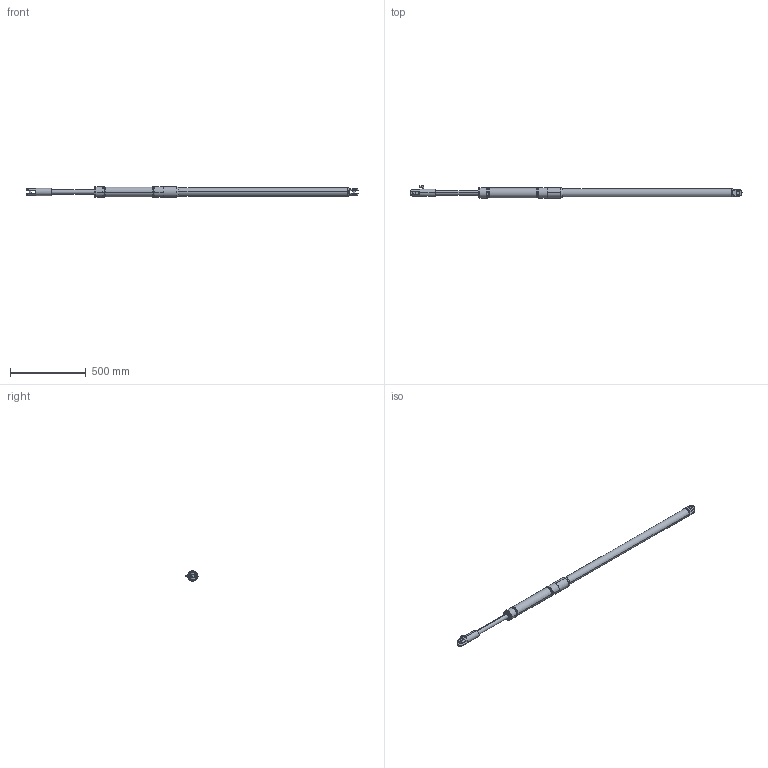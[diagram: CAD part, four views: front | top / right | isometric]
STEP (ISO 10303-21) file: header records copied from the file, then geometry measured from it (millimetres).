
FILE_DESCRIPTION (( 'STEP AP203' ), '1' );
FILE_NAME ('VNG_050.STEP', '2017-12-29T11:33:08', ( 'Pierluca' ), ( '' ), 'SwSTEP 2.0', 'SolidWorks 2015', '' );
FILE_SCHEMA (( 'CONFIG_CONTROL_DESIGN' ));
Length unit declared in the file: millimetre
Products named in the file (1): VNG_050
Bounding box: 2194 x 80.06 x 69 mm (x, y, z)
Volume: 5169972 mm3; surface area: 389135.6 mm2
Topology: 1 solids, 1 shells, 173 faces, 404 edges, 246 vertices
Faces by surface type: plane 66, cylinder 64, cone 29, torus 14
Entity records: 5759 total; most frequent: CARTESIAN_POINT 1721, DIRECTION 860, ORIENTED_EDGE 808, EDGE_CURVE 404, AXIS2_PLACEMENT_3D 337, VERTEX_POINT 246, EDGE_LOOP 190, LINE 186
